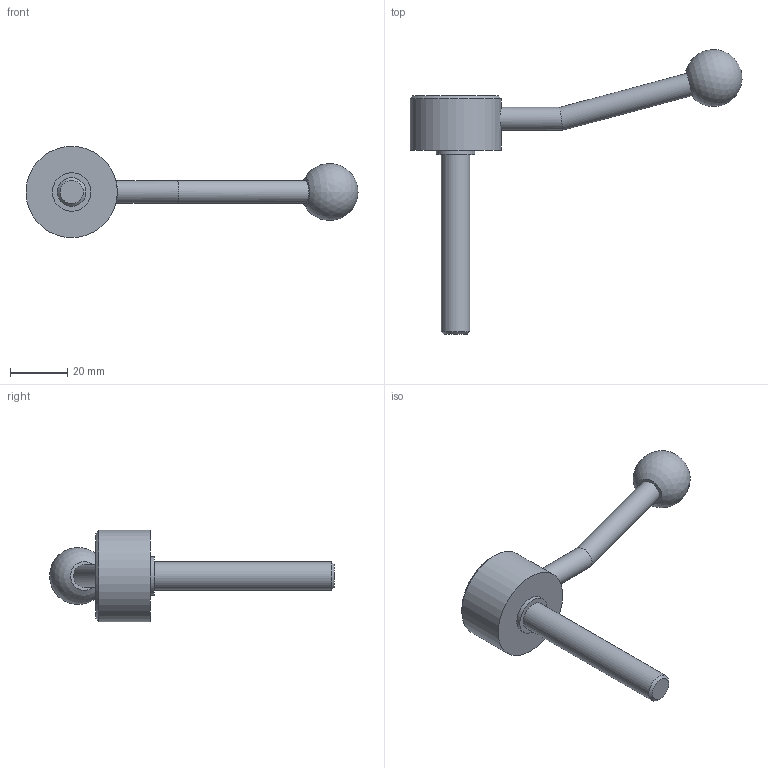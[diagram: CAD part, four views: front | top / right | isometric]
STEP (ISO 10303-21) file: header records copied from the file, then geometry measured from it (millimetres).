
FILE_DESCRIPTION( ( 'STEP AP203' ), '1' );
FILE_NAME( 'C:/Temp/Ganter_Step_05_03_2020/data/2_1/gn_125/gn_125_ms/gn_125_ms_e/Flat Adjustable Lever GN 125-32-M10-63-E.stp', '2020-03-05T11:00:56', ( 'License CC BY-ND 4.0' ), ( 'CADENAS' ), ' ', 'PARTsolutions', ' ' );
FILE_SCHEMA( ( 'CONFIG_CONTROL_DESIGN' ) );
Length unit declared in the file: millimetre
Products named in the file (1): _Flat Adjustable Lever GN 125-32-M10-63-E
Bounding box: 116.33 x 99.72 x 32 mm (x, y, z)
Volume: 27823.4 mm3; surface area: 8355.3 mm2
Topology: 1 solids, 1 shells, 15 faces, 26 edges, 17 vertices
Faces by surface type: cylinder 6, plane 6, cone 2, sphere 1
Full cylindrical faces by diameter (mm): 8 x2, 10 x1, 13.5 x1, 22 x1, 32 x1
Entity records: 404 total; most frequent: CARTESIAN_POINT 110, DIRECTION 58, AXIS2_PLACEMENT_3D 29, EDGE_LOOP 28, ORIENTED_EDGE 28, FACE_OUTER_BOUND 21, ADVANCED_FACE 15, VERTEX_POINT 15
